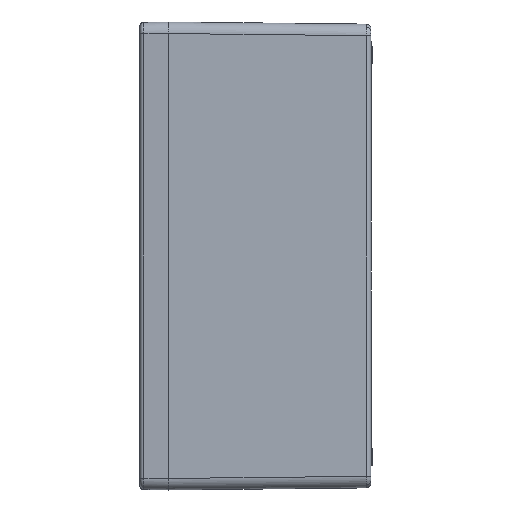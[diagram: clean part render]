
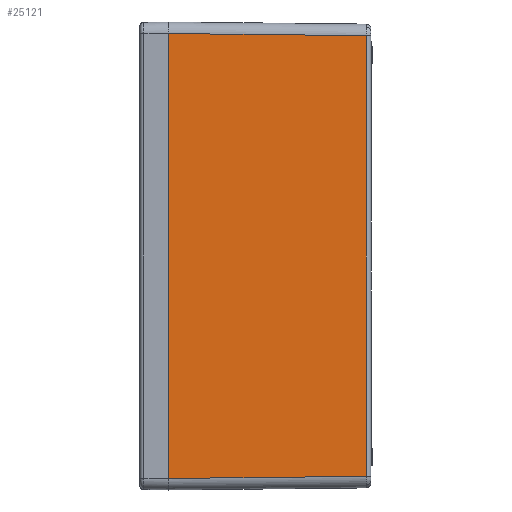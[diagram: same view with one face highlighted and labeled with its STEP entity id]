
A CAD part, left-side view. The second image highlights one B-rep face of the part: STEP entity #25121.
In plain terms, the highlighted planar face has unit normal (-1, -0.011, 0).
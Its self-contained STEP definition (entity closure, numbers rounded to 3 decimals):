
#1609 = CARTESIAN_POINT ( 'NONE',  ( -200., 0., -202.5 ) ) ;
#2061 = EDGE_LOOP ( 'NONE', ( #6898, #54125, #38176, #11138 ) ) ;
#2660 = VECTOR ( 'NONE', #20141, 1000. ) ;
#4790 = CARTESIAN_POINT ( 'NONE',  ( -200., 0., -192.501 ) ) ;
#6898 = ORIENTED_EDGE ( 'NONE', *, *, #37282, .T. ) ;
#7321 = CARTESIAN_POINT ( 'NONE',  ( -198.179, -171.043, 190.679 ) ) ;
#9469 = AXIS2_PLACEMENT_3D ( 'NONE', #1609, #21773, #25964 ) ;
#11138 = ORIENTED_EDGE ( 'NONE', *, *, #11875, .F. ) ;
#11875 = EDGE_CURVE ( 'NONE', #31548, #14154, #22741, .T. ) ;
#14154 = VERTEX_POINT ( 'NONE', #33968 ) ;
#15154 = VERTEX_POINT ( 'NONE', #47707 ) ;
#18077 = VECTOR ( 'NONE', #40942, 1000. ) ;
#18283 = PLANE ( 'NONE',  #9469 ) ;
#19520 = CARTESIAN_POINT ( 'NONE',  ( -200., 0., -202.5 ) ) ;
#20141 = DIRECTION ( 'NONE',  ( 0., 0., 1. ) ) ;
#21335 = CARTESIAN_POINT ( 'NONE',  ( -199.955, -4.205, 192.456 ) ) ;
#21773 = DIRECTION ( 'NONE',  ( -1., -0.011, 0. ) ) ;
#22741 = LINE ( 'NONE', #19520, #40360 ) ;
#24729 = LINE ( 'NONE', #21335, #34518 ) ;
#25121 = ADVANCED_FACE ( 'NONE', ( #31325 ), #18283, .T. ) ;
#25964 = DIRECTION ( 'NONE',  ( 0.011, -1., 0. ) ) ;
#28482 = DIRECTION ( 'NONE',  ( 0., 0., 1. ) ) ;
#31325 = FACE_OUTER_BOUND ( 'NONE', #2061, .T. ) ;
#31548 = VERTEX_POINT ( 'NONE', #4790 ) ;
#33444 = LINE ( 'NONE', #37298, #2660 ) ;
#33968 = CARTESIAN_POINT ( 'NONE',  ( -200., 0., 192.501 ) ) ;
#34282 = DIRECTION ( 'NONE',  ( -0.011, 1., 0.011 ) ) ;
#34518 = VECTOR ( 'NONE', #34282, 1000. ) ;
#36392 = CARTESIAN_POINT ( 'NONE',  ( -200.001, 0.106, -192.502 ) ) ;
#37231 = VERTEX_POINT ( 'NONE', #7321 ) ;
#37282 = EDGE_CURVE ( 'NONE', #31548, #15154, #45555, .T. ) ;
#37298 = CARTESIAN_POINT ( 'NONE',  ( -198.179, -171.043, 190.637 ) ) ;
#38176 = ORIENTED_EDGE ( 'NONE', *, *, #51386, .T. ) ;
#40360 = VECTOR ( 'NONE', #28482, 1000. ) ;
#40942 = DIRECTION ( 'NONE',  ( 0.011, -1., 0.011 ) ) ;
#43968 = EDGE_CURVE ( 'NONE', #15154, #37231, #33444, .T. ) ;
#45555 = LINE ( 'NONE', #36392, #18077 ) ;
#47707 = CARTESIAN_POINT ( 'NONE',  ( -198.179, -171.043, -190.679 ) ) ;
#51386 = EDGE_CURVE ( 'NONE', #37231, #14154, #24729, .T. ) ;
#54125 = ORIENTED_EDGE ( 'NONE', *, *, #43968, .T. ) ;
